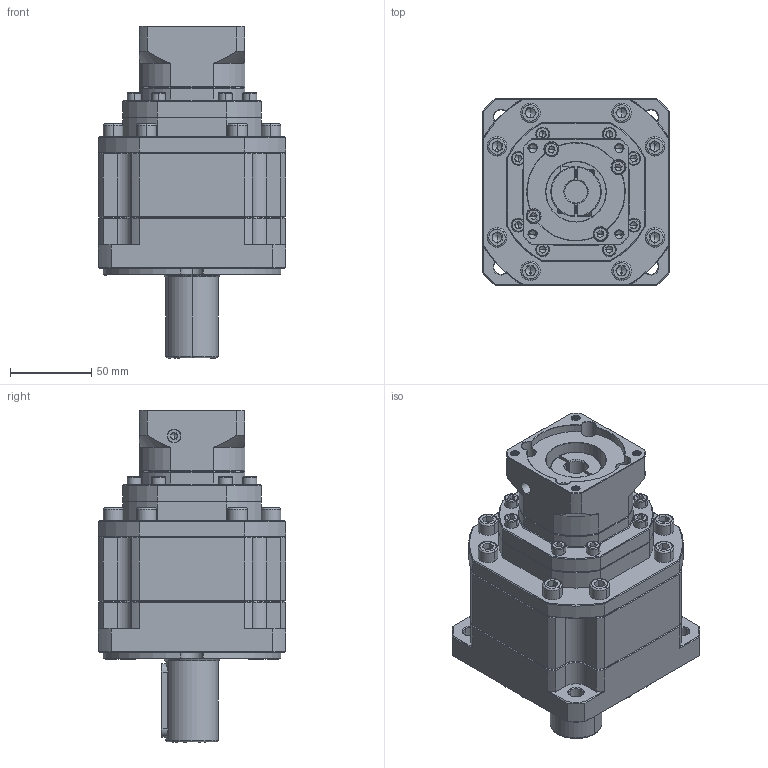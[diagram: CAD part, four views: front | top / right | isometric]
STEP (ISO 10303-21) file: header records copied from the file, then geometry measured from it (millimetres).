
FILE_DESCRIPTION (( 'STEP AP214' ), '1' );
FILE_NAME ('ZB115A-D32-L3-14-60-75-M6.step', '2023-03-03T09:56:12', ( '' ), ( 'Microsoft' ), 'SwSTEP 2.0', 'SolidWorks 2016', '' );
FILE_SCHEMA (( 'AUTOMOTIVE_DESIGN' ));
Length unit declared in the file: millimetre
Products named in the file (1): ZB115A-D32-L3-14-60-75-M6
Bounding box: 115 x 115 x 204 mm (x, y, z)
Volume: 1305743.1 mm3; surface area: 123324.7 mm2
Topology: 7 solids, 7 shells, 2286 faces, 5941 edges, 3760 vertices
Faces by surface type: plane 1126, cylinder 445, cone 348, bspline 345, torus 22
Entity records: 117305 total; most frequent: CARTESIAN_POINT 39025, ORIENTED_EDGE 11758, DIRECTION 9857, EDGE_CURVE 5879, VERTEX_POINT 3760, LINE 3669, VECTOR 3669, AXIS2_PLACEMENT_3D 3094
